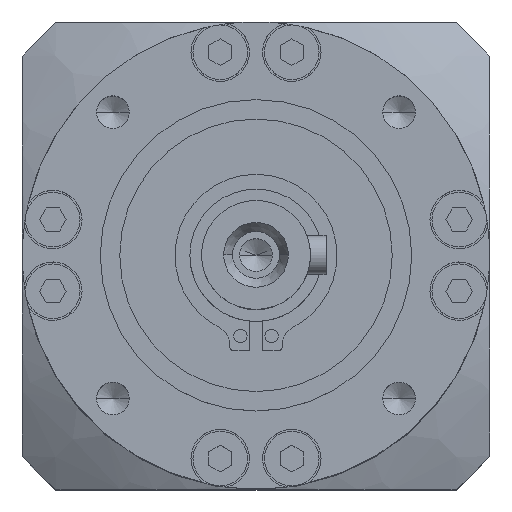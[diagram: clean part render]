
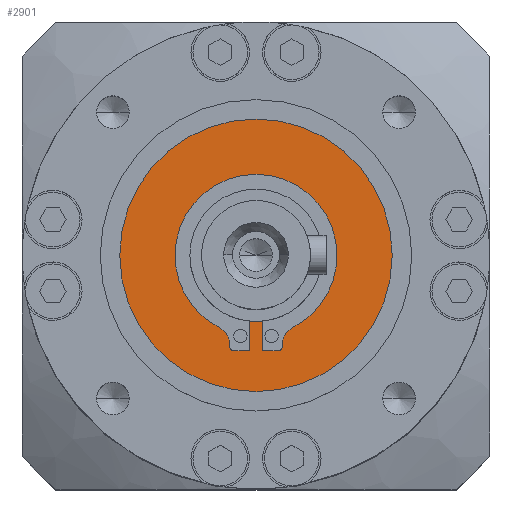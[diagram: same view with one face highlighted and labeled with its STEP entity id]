
A CAD part, top view. The second image highlights one B-rep face of the part: STEP entity #2901.
In plain terms, the highlighted planar face has unit normal (0, 0, 1).
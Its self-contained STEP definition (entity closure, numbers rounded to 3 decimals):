
#37 = DIRECTION ( 'NONE',  ( 1., 0., 0. ) ) ;
#156 = VERTEX_POINT ( 'NONE', #1112 ) ;
#886 = CIRCLE ( 'NONE', #2535, 17.5 ) ;
#960 = DIRECTION ( 'NONE',  ( -1., 0., 0. ) ) ;
#1005 = DIRECTION ( 'NONE',  ( -1., 0., 0. ) ) ;
#1112 = CARTESIAN_POINT ( 'NONE',  ( 3.35, -11.497, -1. ) ) ;
#1329 = VERTEX_POINT ( 'NONE', #9822 ) ;
#1876 = CARTESIAN_POINT ( 'NONE',  ( -10.4, 0., -1. ) ) ;
#1948 = EDGE_CURVE ( 'NONE', #22175, #26326, #886, .T. ) ;
#2286 = EDGE_CURVE ( 'NONE', #26326, #22175, #18751, .T. ) ;
#2474 = DIRECTION ( 'NONE',  ( 0., 0., 1. ) ) ;
#2535 = AXIS2_PLACEMENT_3D ( 'NONE', #4273, #20853, #8786 ) ;
#2845 = EDGE_CURVE ( 'NONE', #9348, #13304, #24600, .T. ) ;
#2901 = ADVANCED_FACE ( 'NONE', ( #8633, #25874 ), #20067, .F. ) ;
#3031 = VERTEX_POINT ( 'NONE', #17951 ) ;
#3182 = CARTESIAN_POINT ( 'NONE',  ( -2.85, -12.257, -1. ) ) ;
#3265 = CARTESIAN_POINT ( 'NONE',  ( 0., 0., -1. ) ) ;
#3619 = VECTOR ( 'NONE', #18526, 1000. ) ;
#3786 = DIRECTION ( 'NONE',  ( 0., -1., 0. ) ) ;
#4046 = ORIENTED_EDGE ( 'NONE', *, *, #18936, .F. ) ;
#4130 = AXIS2_PLACEMENT_3D ( 'NONE', #16578, #16541, #16516 ) ;
#4233 = EDGE_CURVE ( 'NONE', #13304, #26421, #26111, .T. ) ;
#4236 = CARTESIAN_POINT ( 'NONE',  ( 0.85, -8.457, -1. ) ) ;
#4273 = CARTESIAN_POINT ( 'NONE',  ( 0., 0., -1. ) ) ;
#4317 = DIRECTION ( 'NONE',  ( 0., 0., 1. ) ) ;
#4492 = CIRCLE ( 'NONE', #16307, 0.5 ) ;
#4663 = ORIENTED_EDGE ( 'NONE', *, *, #17235, .F. ) ;
#4748 = DIRECTION ( 'NONE',  ( 1., 0., 0. ) ) ;
#5426 = DIRECTION ( 'NONE',  ( -1., 0., 0. ) ) ;
#6089 = VERTEX_POINT ( 'NONE', #11748 ) ;
#6425 = CARTESIAN_POINT ( 'NONE',  ( 0.85, -12.257, -1. ) ) ;
#6736 = EDGE_CURVE ( 'NONE', #156, #11146, #21847, .T. ) ;
#6917 = EDGE_CURVE ( 'NONE', #20268, #9348, #16071, .T. ) ;
#7020 = CIRCLE ( 'NONE', #12031, 10.4 ) ;
#7273 = CARTESIAN_POINT ( 'NONE',  ( 10.4, 0., -1. ) ) ;
#7481 = AXIS2_PLACEMENT_3D ( 'NONE', #19895, #19890, #19870 ) ;
#7873 = VERTEX_POINT ( 'NONE', #1876 ) ;
#8008 = CARTESIAN_POINT ( 'NONE',  ( -3.35, 0., -1. ) ) ;
#8360 = ORIENTED_EDGE ( 'NONE', *, *, #4233, .F. ) ;
#8526 = ORIENTED_EDGE ( 'NONE', *, *, #8696, .F. ) ;
#8633 = FACE_BOUND ( 'NONE', #25725, .T. ) ;
#8696 = EDGE_CURVE ( 'NONE', #6089, #3031, #15919, .T. ) ;
#8786 = DIRECTION ( 'NONE',  ( 1., 0., 0. ) ) ;
#8981 = VECTOR ( 'NONE', #3786, 1000. ) ;
#9015 = AXIS2_PLACEMENT_3D ( 'NONE', #20989, #20957, #20840 ) ;
#9348 = VERTEX_POINT ( 'NONE', #9647 ) ;
#9647 = CARTESIAN_POINT ( 'NONE',  ( -0.85, -8.457, -1. ) ) ;
#9704 = ORIENTED_EDGE ( 'NONE', *, *, #13577, .F. ) ;
#9822 = CARTESIAN_POINT ( 'NONE',  ( 2.85, -12.257, -1. ) ) ;
#10138 = LINE ( 'NONE', #14948, #15120 ) ;
#10352 = CARTESIAN_POINT ( 'NONE',  ( -17.5, 0., -1. ) ) ;
#10432 = CARTESIAN_POINT ( 'NONE',  ( 4.716, -9.269, -1. ) ) ;
#10505 = CARTESIAN_POINT ( 'NONE',  ( 3.35, -11.757, -1. ) ) ;
#10559 = ORIENTED_EDGE ( 'NONE', *, *, #2845, .F. ) ;
#11146 = VERTEX_POINT ( 'NONE', #10432 ) ;
#11189 = ORIENTED_EDGE ( 'NONE', *, *, #19452, .F. ) ;
#11748 = CARTESIAN_POINT ( 'NONE',  ( -4.716, -9.269, -1. ) ) ;
#11992 = CARTESIAN_POINT ( 'NONE',  ( 0., 0., -1. ) ) ;
#12027 = DIRECTION ( 'NONE',  ( 0., -1., 0. ) ) ;
#12031 = AXIS2_PLACEMENT_3D ( 'NONE', #15234, #2474, #17317 ) ;
#12345 = CIRCLE ( 'NONE', #15473, 0.5 ) ;
#12632 = CARTESIAN_POINT ( 'NONE',  ( 17.5, 0., -1. ) ) ;
#12924 = CIRCLE ( 'NONE', #13229, 10.4 ) ;
#13229 = AXIS2_PLACEMENT_3D ( 'NONE', #3265, #18094, #5426 ) ;
#13304 = VERTEX_POINT ( 'NONE', #4236 ) ;
#13324 = CIRCLE ( 'NONE', #19782, 10.4 ) ;
#13577 = EDGE_CURVE ( 'NONE', #17815, #17220, #4492, .T. ) ;
#13750 = DIRECTION ( 'NONE',  ( 0., 0., 1. ) ) ;
#13793 = DIRECTION ( 'NONE',  ( 0., 0., 1. ) ) ;
#14080 = DIRECTION ( 'NONE',  ( 1., 0., 0. ) ) ;
#14948 = CARTESIAN_POINT ( 'NONE',  ( 0., -12.257, -1. ) ) ;
#15120 = VECTOR ( 'NONE', #37, 1000. ) ;
#15234 = CARTESIAN_POINT ( 'NONE',  ( 0., 0., -1. ) ) ;
#15373 = VECTOR ( 'NONE', #14080, 1000. ) ;
#15401 = ORIENTED_EDGE ( 'NONE', *, *, #2286, .T. ) ;
#15473 = AXIS2_PLACEMENT_3D ( 'NONE', #26018, #13750, #960 ) ;
#15919 = CIRCLE ( 'NONE', #4130, 2.5 ) ;
#16071 = LINE ( 'NONE', #18508, #21557 ) ;
#16174 = CARTESIAN_POINT ( 'NONE',  ( 0., -12.257, -1. ) ) ;
#16202 = EDGE_CURVE ( 'NONE', #1329, #21149, #12345, .T. ) ;
#16307 = AXIS2_PLACEMENT_3D ( 'NONE', #26060, #13793, #1005 ) ;
#16360 = EDGE_CURVE ( 'NONE', #3031, #17815, #19503, .T. ) ;
#16488 = CARTESIAN_POINT ( 'NONE',  ( 3.35, 0., -1. ) ) ;
#16516 = DIRECTION ( 'NONE',  ( -1., 0., 0. ) ) ;
#16541 = DIRECTION ( 'NONE',  ( 0., 0., -1. ) ) ;
#16578 = CARTESIAN_POINT ( 'NONE',  ( -5.85, -11.497, -1. ) ) ;
#17061 = CARTESIAN_POINT ( 'NONE',  ( 0., 0., -1. ) ) ;
#17220 = VERTEX_POINT ( 'NONE', #3182 ) ;
#17235 = EDGE_CURVE ( 'NONE', #19792, #7873, #12924, .T. ) ;
#17317 = DIRECTION ( 'NONE',  ( -1., 0., 0. ) ) ;
#17646 = AXIS2_PLACEMENT_3D ( 'NONE', #11992, #23118, #4748 ) ;
#17815 = VERTEX_POINT ( 'NONE', #21272 ) ;
#17951 = CARTESIAN_POINT ( 'NONE',  ( -3.35, -11.497, -1. ) ) ;
#18094 = DIRECTION ( 'NONE',  ( 0., 0., 1. ) ) ;
#18235 = EDGE_CURVE ( 'NONE', #17220, #20268, #10138, .T. ) ;
#18401 = DIRECTION ( 'NONE',  ( 0., 1., 0. ) ) ;
#18508 = CARTESIAN_POINT ( 'NONE',  ( -0.85, 0., -1. ) ) ;
#18526 = DIRECTION ( 'NONE',  ( 0., 1., 0. ) ) ;
#18751 = CIRCLE ( 'NONE', #17646, 17.5 ) ;
#18922 = ORIENTED_EDGE ( 'NONE', *, *, #16360, .F. ) ;
#18936 = EDGE_CURVE ( 'NONE', #26421, #1329, #26217, .T. ) ;
#19097 = DIRECTION ( 'NONE',  ( -1., 0., 0. ) ) ;
#19188 = DIRECTION ( 'NONE',  ( -1., 0., 0. ) ) ;
#19216 = DIRECTION ( 'NONE',  ( 0., 0., -1. ) ) ;
#19269 = CARTESIAN_POINT ( 'NONE',  ( 0., 0., -1. ) ) ;
#19452 = EDGE_CURVE ( 'NONE', #21149, #156, #25876, .T. ) ;
#19503 = LINE ( 'NONE', #8008, #8981 ) ;
#19782 = AXIS2_PLACEMENT_3D ( 'NONE', #17061, #4317, #19097 ) ;
#19792 = VERTEX_POINT ( 'NONE', #7273 ) ;
#19870 = DIRECTION ( 'NONE',  ( -1., 0., 0. ) ) ;
#19890 = DIRECTION ( 'NONE',  ( 0., 0., 1. ) ) ;
#19895 = CARTESIAN_POINT ( 'NONE',  ( 0., 0., -1. ) ) ;
#20067 = PLANE ( 'NONE',  #21555 ) ;
#20268 = VERTEX_POINT ( 'NONE', #20354 ) ;
#20354 = CARTESIAN_POINT ( 'NONE',  ( -0.85, -12.257, -1. ) ) ;
#20457 = EDGE_CURVE ( 'NONE', #7873, #6089, #13324, .T. ) ;
#20840 = DIRECTION ( 'NONE',  ( -1., 0., 0. ) ) ;
#20853 = DIRECTION ( 'NONE',  ( 0., 0., 1. ) ) ;
#20881 = CARTESIAN_POINT ( 'NONE',  ( 0.85, 0., -1. ) ) ;
#20957 = DIRECTION ( 'NONE',  ( 0., 0., -1. ) ) ;
#20989 = CARTESIAN_POINT ( 'NONE',  ( 5.85, -11.497, -1. ) ) ;
#21149 = VERTEX_POINT ( 'NONE', #10505 ) ;
#21272 = CARTESIAN_POINT ( 'NONE',  ( -3.35, -11.757, -1. ) ) ;
#21318 = ORIENTED_EDGE ( 'NONE', *, *, #1948, .T. ) ;
#21555 = AXIS2_PLACEMENT_3D ( 'NONE', #19269, #19216, #19188 ) ;
#21557 = VECTOR ( 'NONE', #18401, 1000. ) ;
#21847 = CIRCLE ( 'NONE', #9015, 2.5 ) ;
#22175 = VERTEX_POINT ( 'NONE', #10352 ) ;
#22570 = VECTOR ( 'NONE', #12027, 1000. ) ;
#22750 = EDGE_CURVE ( 'NONE', #11146, #19792, #7020, .T. ) ;
#23118 = DIRECTION ( 'NONE',  ( 0., 0., 1. ) ) ;
#24600 = CIRCLE ( 'NONE', #7481, 8.5 ) ;
#25407 = ORIENTED_EDGE ( 'NONE', *, *, #20457, .F. ) ;
#25618 = ORIENTED_EDGE ( 'NONE', *, *, #18235, .F. ) ;
#25671 = EDGE_LOOP ( 'NONE', ( #15401, #21318 ) ) ;
#25697 = ORIENTED_EDGE ( 'NONE', *, *, #16202, .F. ) ;
#25725 = EDGE_LOOP ( 'NONE', ( #25618, #9704, #18922, #8526, #25407, #4663, #26392, #26183, #11189, #25697, #4046, #8360, #10559, #26975 ) ) ;
#25874 = FACE_OUTER_BOUND ( 'NONE', #25671, .T. ) ;
#25876 = LINE ( 'NONE', #16488, #3619 ) ;
#26018 = CARTESIAN_POINT ( 'NONE',  ( 2.85, -11.757, -1. ) ) ;
#26060 = CARTESIAN_POINT ( 'NONE',  ( -2.85, -11.757, -1. ) ) ;
#26111 = LINE ( 'NONE', #20881, #22570 ) ;
#26183 = ORIENTED_EDGE ( 'NONE', *, *, #6736, .F. ) ;
#26217 = LINE ( 'NONE', #16174, #15373 ) ;
#26326 = VERTEX_POINT ( 'NONE', #12632 ) ;
#26392 = ORIENTED_EDGE ( 'NONE', *, *, #22750, .F. ) ;
#26421 = VERTEX_POINT ( 'NONE', #6425 ) ;
#26975 = ORIENTED_EDGE ( 'NONE', *, *, #6917, .F. ) ;
